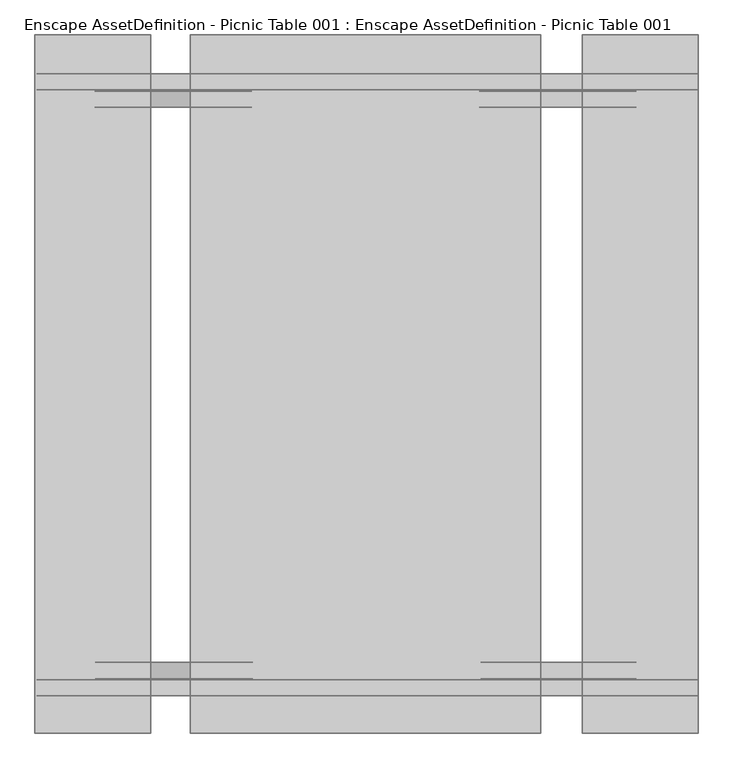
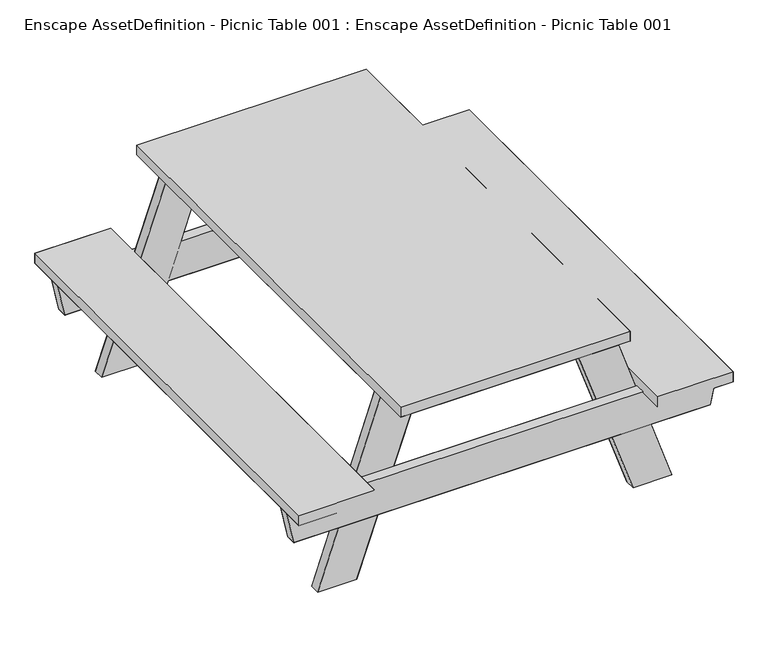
"""IFC4 building model written with IfcOpenShell, lengths in millimetres: geographic element geometry, Enscape AssetDefinition - Picnic Table 001 : Enscape AssetDefinition - Picnic Table 001."""

from ifc_helpers import new_model, si_unit, origin, place, context, project, spatial, triangles, source, transform, mapped, element, save


def enscape_assetdefinition_picnic_table_001_enscape_42751bdf(model_context):
    return source(origin(), model_context, "Body", "Tessellation", [
        triangles([(647.4419489, 669.9330179, 416.3550004), (945.8199572, 669.9330179, 416.3550004), (945.8199572, -1126.0999414, 416.3550004), (647.4419489, -1126.0999414, 416.3550004), (647.4419489, -1126.0999414, 457.7510201), (647.4419489, 669.9330179, 457.7510201), (945.8199572, -1126.0999414, 457.7510201), (945.8199572, 669.9330179, 457.7510201), (-760.1119612, 669.9330179, 416.3550004), (-461.7349703, 669.9330179, 416.3550004), (-760.1119612, -1126.0999414, 416.3550004), (-760.1119612, 669.9330179, 457.7510201), (-461.7349703, -1126.0999414, 416.3550004), (-760.1119612, -1126.0999414, 457.7510201), (-461.7349703, -1126.0999414, 457.7510201), (-461.7349703, 669.9330179, 457.7510201), (-360.7009847, -1126.0999414, 727.0799658), (541.2250311, -1126.0999414, 727.0799658), (-360.7009847, -1126.0999414, 767.8489889), (541.2250311, 669.9330179, 727.0799658), (-360.7009847, 669.9330179, 767.8489889), (-360.7009847, 669.9330179, 727.0799658), (541.2250311, 669.9330179, 767.8489889), (541.2250311, -1126.0999414, 767.8489889), (-724.9489912, 528.4370035, 274.9659744), (912.2100174, 528.4370035, 274.9659744), (943.2160463, 569.8329869, 421.7829758), (-755.8719584, 528.4370035, 421.7829758), (943.2160463, 528.4370035, 421.7829758), (-755.8719584, 569.8329869, 421.7829758), (912.2100174, 569.8329869, 274.9659744), (-724.9489912, 569.8329869, 274.9659744), (-724.9489912, -1030.1159746, 274.9659744), (912.2100174, -1030.1159746, 274.9659744), (943.2160463, -1030.1159746, 421.7829758), (912.2100174, -988.7200275, 274.9659744), (-755.8719584, -1030.1159746, 421.7829758), (-755.8719584, -988.7200275, 421.7829758), (943.2160463, -988.7200275, 421.7829758), (-724.9489912, -988.7200275, 274.9659744), (633.7229462, -985.7969501, 0.992), (538.6029528, -985.7969501, 727.485973), (538.6029528, -944.4009304, 727.485973), (786.5759708, -985.7969501, 0.612), (387.1149611, -985.7969501, 710.2209658), (387.1149611, -944.4009304, 710.2209658), (633.7229462, -944.4009304, 0.992), (786.5759708, -944.4009304, 0.612), (-452.5759727, -985.7979675, 1.2789999), (-605.0770203, -985.7979675, -0.924), (-199.2449967, -985.7979675, 727.9660309), (-452.5759727, -944.4009304, 1.2789999), (-356.6930171, -944.4009304, 727.1529991), (-199.2449967, -944.4009304, 727.9660309), (-356.6930171, -985.7979675, 727.1529991), (-605.0770203, -944.4009304, -0.924), (-605.8629825, 525.0030198, 1.1819999), (-605.8629825, 483.6069637, 1.1819999), (-352.5919956, 483.6069637, 729.4119455), (-449.3389609, 525.0030198, 0.871), (-352.5919956, 525.0030198, 729.4119455), (-201.6659791, 483.6069637, 726.8669701), (-449.3389609, 483.6069637, 0.871), (-201.6659791, 525.0030198, 726.8669701), (534.1579843, 525.0030198, 729.1339828), (534.1579843, 483.6069637, 729.1339828), (786.5039549, 483.6069637, 0.823), (786.5039549, 525.0030198, 0.823), (382.4329794, 525.0030198, 730.546978), (631.7299719, 525.0030198, 1.562), (631.7299719, 483.6069637, 1.562), (382.4329794, 483.6069637, 730.546978)], [[66, 72, 71], [70, 71, 72], [72, 69, 70], [70, 69, 65], [65, 68, 70], [71, 67, 66], [65, 66, 67], [67, 68, 65], [61, 64, 60], [63, 60, 64], [64, 62, 63], [63, 62, 59], [59, 58, 63], [60, 57, 61], [59, 61, 57], [57, 58, 59], [55, 53, 56], [56, 50, 55], [53, 54, 52], [52, 56, 53], [52, 54, 51], [51, 49, 52], [55, 50, 49], [49, 51, 55], [44, 48, 43], [43, 48, 47], [47, 46, 43], [47, 41, 45], [45, 46, 47], [43, 42, 44], [41, 44, 42], [42, 45, 41], [40, 38, 39], [39, 36, 40], [40, 36, 34], [38, 40, 33], [34, 33, 40], [39, 38, 37], [33, 37, 38], [37, 35, 39], [36, 39, 35], [35, 34, 36], [33, 34, 35], [35, 37, 33], [32, 30, 27], [27, 31, 32], [32, 31, 26], [30, 32, 25], [26, 25, 32], [27, 30, 28], [25, 28, 30], [28, 29, 27], [31, 27, 29], [29, 26, 31], [25, 26, 29], [29, 28, 25], [23, 21, 19], [19, 24, 23], [23, 24, 18], [21, 23, 20], [18, 20, 23], [19, 21, 22], [20, 22, 21], [22, 17, 19], [24, 19, 17], [17, 18, 24], [20, 18, 17], [17, 22, 20], [16, 12, 14], [14, 15, 16], [16, 15, 13], [12, 16, 10], [13, 10, 16], [14, 12, 9], [10, 9, 12], [9, 11, 14], [15, 14, 11], [11, 13, 15], [10, 13, 11], [11, 9, 10], [8, 6, 5], [5, 7, 8], [8, 7, 3], [6, 8, 2], [3, 2, 8], [5, 6, 1], [2, 1, 6], [1, 4, 5], [7, 5, 4], [4, 3, 7], [2, 3, 4], [4, 1, 2]], closed=False),
    ])


if __name__ == "__main__":
    model = new_model("IFC4")
    model_context = context("Model", 3, world=origin())
    ifc_project = project(units=[si_unit("LENGTHUNIT", "METRE", prefix="MILLI")], contexts=[model_context])
    site = spatial("IfcSite", under=ifc_project)
    building = spatial("IfcBuilding", under=site)
    placement = place(None, origin())
    enscape_assetdefinition_picnic_table_001_enscape_shape = enscape_assetdefinition_picnic_table_001_enscape_42751bdf(model_context)
    element("IfcGeographicElement", 1, ObjectType="Enscape AssetDefinition - Picnic Table 001 : Enscape AssetDefinition - Picnic Table 001", at=placement, inside=building, context=model_context, shape_type="MappedRepresentation", body=[
        mapped(enscape_assetdefinition_picnic_table_001_enscape_shape, transform((0.0, 0.0, 0.0), x_axis=(1.0, 0.0, 0.0), y_axis=(0.0, 1.0, 0.0), z_axis=(0.0, 0.0, 1.0))),
    ])
    save(model, "model.ifc")
